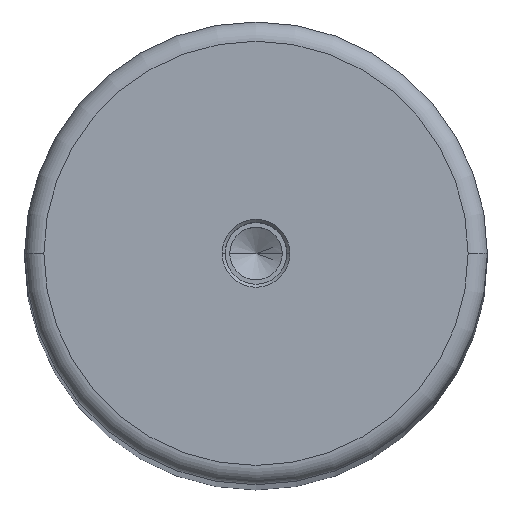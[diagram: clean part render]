
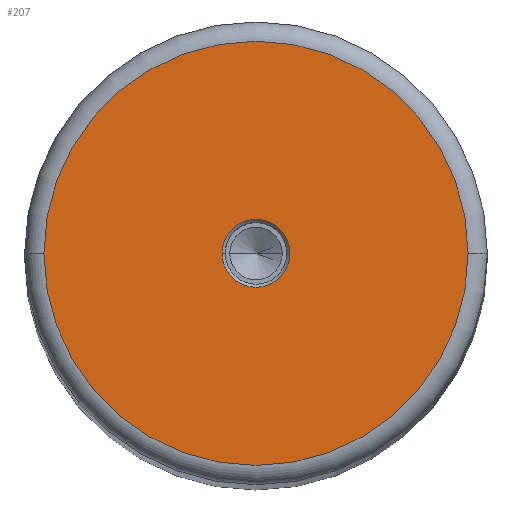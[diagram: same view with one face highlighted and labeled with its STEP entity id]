
A CAD part, top view. The second image highlights one B-rep face of the part: STEP entity #207.
In plain terms, the highlighted planar face has unit normal (0, 0, 1).
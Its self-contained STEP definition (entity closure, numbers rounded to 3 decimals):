
#58 = ORIENTED_EDGE ( 'NONE', *, *, #630, .T. ) ;
#66 = CARTESIAN_POINT ( 'NONE',  ( 4.4, 0., 0. ) ) ;
#90 = AXIS2_PLACEMENT_3D ( 'NONE', #575, #281, #356 ) ;
#98 = VERTEX_POINT ( 'NONE', #240 ) ;
#103 = DIRECTION ( 'NONE',  ( 0., 0., -1. ) ) ;
#107 = CARTESIAN_POINT ( 'NONE',  ( 0., 0., 0. ) ) ;
#138 = CARTESIAN_POINT ( 'NONE',  ( -27.5, 0., 0. ) ) ;
#147 = VERTEX_POINT ( 'NONE', #66 ) ;
#153 = CARTESIAN_POINT ( 'NONE',  ( 0., 0., 0. ) ) ;
#156 = CARTESIAN_POINT ( 'NONE',  ( -4.4, 0., 0. ) ) ;
#166 = CIRCLE ( 'NONE', #491, 4.4 ) ;
#174 = DIRECTION ( 'NONE',  ( -1., 0., 0. ) ) ;
#207 = ADVANCED_FACE ( 'NONE', ( #751, #713 ), #244, .F. ) ;
#240 = CARTESIAN_POINT ( 'NONE',  ( 27.5, 0., 0. ) ) ;
#244 = PLANE ( 'NONE',  #369 ) ;
#245 = AXIS2_PLACEMENT_3D ( 'NONE', #314, #480, #174 ) ;
#261 = EDGE_CURVE ( 'NONE', #474, #147, #166, .T. ) ;
#281 = DIRECTION ( 'NONE',  ( 0., 0., 1. ) ) ;
#309 = EDGE_CURVE ( 'NONE', #98, #599, #388, .T. ) ;
#310 = ORIENTED_EDGE ( 'NONE', *, *, #261, .T. ) ;
#311 = DIRECTION ( 'NONE',  ( -1., 0., 0. ) ) ;
#314 = CARTESIAN_POINT ( 'NONE',  ( 0., 0., 0. ) ) ;
#334 = DIRECTION ( 'NONE',  ( -1., 0., 0. ) ) ;
#356 = DIRECTION ( 'NONE',  ( -1., 0., 0. ) ) ;
#369 = AXIS2_PLACEMENT_3D ( 'NONE', #506, #103, #371 ) ;
#371 = DIRECTION ( 'NONE',  ( -1., 0., 0. ) ) ;
#379 = EDGE_CURVE ( 'NONE', #599, #98, #516, .T. ) ;
#380 = DIRECTION ( 'NONE',  ( 0., 0., 1. ) ) ;
#388 = CIRCLE ( 'NONE', #600, 27.5 ) ;
#429 = DIRECTION ( 'NONE',  ( 0., 0., -1. ) ) ;
#474 = VERTEX_POINT ( 'NONE', #156 ) ;
#480 = DIRECTION ( 'NONE',  ( 0., 0., -1. ) ) ;
#491 = AXIS2_PLACEMENT_3D ( 'NONE', #107, #429, #311 ) ;
#506 = CARTESIAN_POINT ( 'NONE',  ( 0., 0., 0. ) ) ;
#516 = CIRCLE ( 'NONE', #90, 27.5 ) ;
#546 = ORIENTED_EDGE ( 'NONE', *, *, #379, .T. ) ;
#575 = CARTESIAN_POINT ( 'NONE',  ( 0., 0., 0. ) ) ;
#587 = CIRCLE ( 'NONE', #245, 4.4 ) ;
#599 = VERTEX_POINT ( 'NONE', #138 ) ;
#600 = AXIS2_PLACEMENT_3D ( 'NONE', #153, #380, #334 ) ;
#630 = EDGE_CURVE ( 'NONE', #147, #474, #587, .T. ) ;
#676 = ORIENTED_EDGE ( 'NONE', *, *, #309, .T. ) ;
#686 = EDGE_LOOP ( 'NONE', ( #546, #676 ) ) ;
#713 = FACE_OUTER_BOUND ( 'NONE', #686, .T. ) ;
#747 = EDGE_LOOP ( 'NONE', ( #58, #310 ) ) ;
#751 = FACE_BOUND ( 'NONE', #747, .T. ) ;
